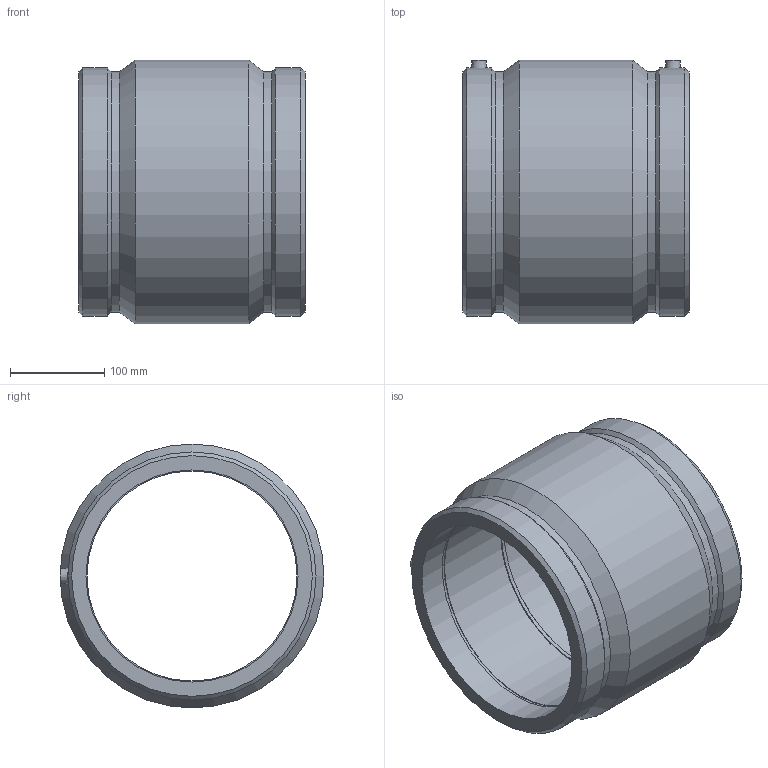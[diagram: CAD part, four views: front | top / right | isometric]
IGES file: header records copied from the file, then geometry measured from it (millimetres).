
Global section: file name: 450104225.ipt; native system: Autodesk Inventor 2015; preprocessor: unknown; author: KIM; date: 20171106.093356; units: millimetre
Bounding box: 240 x 280 x 280 mm (x, y, z)
Volume: 4358659.9 mm3; surface area: 413755.3 mm2
Topology: 1 solids, 1 shells, 36 faces, 80 edges, 54 vertices
Faces by surface type: plane 12, revolution 9, cone 8, cylinder 7
Full cylindrical faces by diameter (mm): 4 x2, 255.304 x2, 263.2 x2, 280 x1
